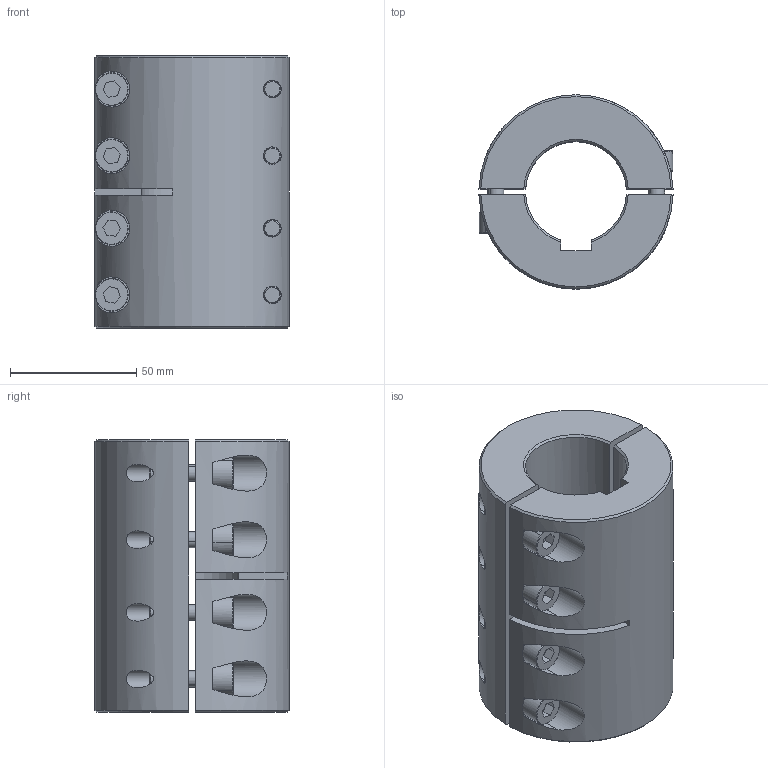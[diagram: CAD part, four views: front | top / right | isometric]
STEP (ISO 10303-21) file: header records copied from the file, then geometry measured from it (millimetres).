
FILE_DESCRIPTION((''),'2;1');
FILE_NAME('MSPC-40-40-X','2016-09-08T',('SYSTEM'),(''),'PRO/ENGINEER BY PARAMETRIC TECHNOLOGY CORPORATION, 2015110','PRO/ENGINEER BY PARAMETRIC TECHNOLOGY CORPORATION, 2015110','');
FILE_SCHEMA(('AUTOMOTIVE_DESIGN { 1 0 10303 214 1 1 1 1 }'));
Length unit declared in the file: inch
Products named in the file (1): MSPC-40-40-X
Bounding box: 76.96 x 77 x 108 mm (x, y, z)
Volume: 338376.7 mm3; surface area: 70696.2 mm2
Topology: 2 solids, 2 shells, 250 faces, 594 edges, 380 vertices
Faces by surface type: plane 115, cylinder 93, cone 42
Entity records: 9573 total; most frequent: CARTESIAN_POINT 1823, DIRECTION 1246, ORIENTED_EDGE 1188, PRESENTATION_STYLE_ASSIGNMENT 596, STYLED_ITEM 596, CURVE_STYLE 594, EDGE_CURVE 594, AXIS2_PLACEMENT_3D 462
